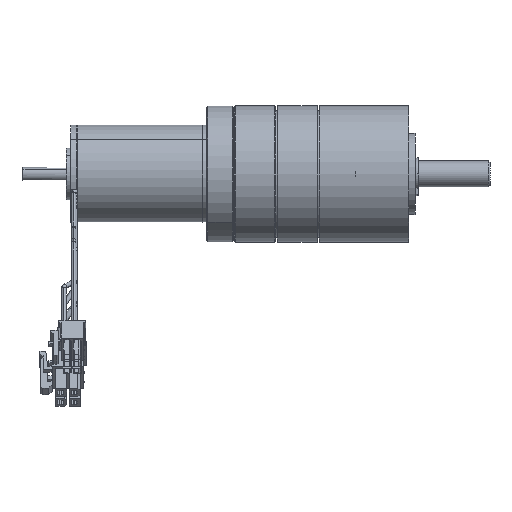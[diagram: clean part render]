
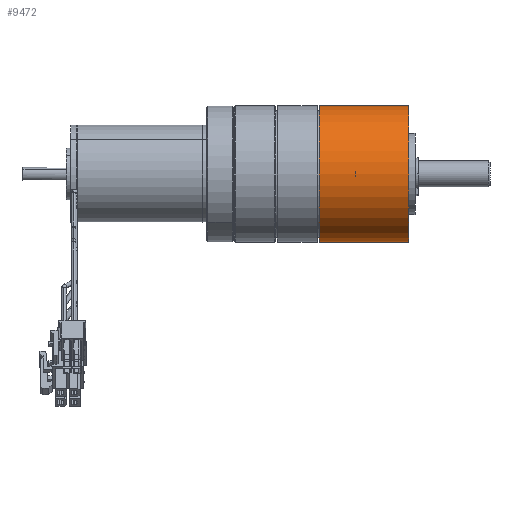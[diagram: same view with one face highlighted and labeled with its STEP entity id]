
A CAD part, front view. The second image highlights one B-rep face of the part: STEP entity #9472.
In plain terms, the highlighted cylindrical face has radius 21 mm (diameter 42 mm), a partial arc.
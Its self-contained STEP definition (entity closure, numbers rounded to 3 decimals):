
#1850 = ORIENTED_EDGE ( 'NONE', *, *, #38121, .T. ) ;
#3656 = CIRCLE ( 'NONE', #16270, 21. ) ;
#3757 = DIRECTION ( 'NONE',  ( 0., 0., -1. ) ) ;
#6589 = VECTOR ( 'NONE', #31082, 1000. ) ;
#8558 = CYLINDRICAL_SURFACE ( 'NONE', #44877, 21. ) ;
#8593 = CARTESIAN_POINT ( 'NONE',  ( -2., 0., 21. ) ) ;
#9262 = DIRECTION ( 'NONE',  ( 0., 0., -1. ) ) ;
#9472 = ADVANCED_FACE ( 'NONE', ( #28973 ), #8558, .T. ) ;
#9943 = VERTEX_POINT ( 'NONE', #17185 ) ;
#13030 = DIRECTION ( 'NONE',  ( 1., 0., 0. ) ) ;
#13934 = LINE ( 'NONE', #59204, #6589 ) ;
#15158 = ORIENTED_EDGE ( 'NONE', *, *, #45230, .T. ) ;
#16270 = AXIS2_PLACEMENT_3D ( 'NONE', #50227, #59835, #27034 ) ;
#17185 = CARTESIAN_POINT ( 'NONE',  ( 25.5, 0., 21. ) ) ;
#17838 = DIRECTION ( 'NONE',  ( -1., 0., 0. ) ) ;
#23751 = CIRCLE ( 'NONE', #52446, 21. ) ;
#26602 = DIRECTION ( 'NONE',  ( 1., 0., 0. ) ) ;
#26997 = CARTESIAN_POINT ( 'NONE',  ( -3.475, 0., 0. ) ) ;
#27034 = DIRECTION ( 'NONE',  ( 0., 0., -1. ) ) ;
#28035 = VERTEX_POINT ( 'NONE', #47610 ) ;
#28973 = FACE_OUTER_BOUND ( 'NONE', #53928, .T. ) ;
#30516 = CARTESIAN_POINT ( 'NONE',  ( -2., 0., -21. ) ) ;
#31082 = DIRECTION ( 'NONE',  ( 1., 0., 0. ) ) ;
#34350 = ORIENTED_EDGE ( 'NONE', *, *, #59052, .F. ) ;
#34893 = ORIENTED_EDGE ( 'NONE', *, *, #35915, .T. ) ;
#35915 = EDGE_CURVE ( 'NONE', #28035, #9943, #23751, .T. ) ;
#37736 = VERTEX_POINT ( 'NONE', #30516 ) ;
#38121 = EDGE_CURVE ( 'NONE', #37736, #28035, #43541, .T. ) ;
#42683 = VERTEX_POINT ( 'NONE', #8593 ) ;
#43541 = LINE ( 'NONE', #50263, #54481 ) ;
#44877 = AXIS2_PLACEMENT_3D ( 'NONE', #26997, #26602, #3757 ) ;
#45230 = EDGE_CURVE ( 'NONE', #42683, #37736, #3656, .T. ) ;
#47610 = CARTESIAN_POINT ( 'NONE',  ( 25.5, 0., -21. ) ) ;
#50227 = CARTESIAN_POINT ( 'NONE',  ( -2., 0., 0. ) ) ;
#50263 = CARTESIAN_POINT ( 'NONE',  ( -3.475, 0., -21. ) ) ;
#52446 = AXIS2_PLACEMENT_3D ( 'NONE', #55055, #17838, #9262 ) ;
#53928 = EDGE_LOOP ( 'NONE', ( #34350, #15158, #1850, #34893 ) ) ;
#54481 = VECTOR ( 'NONE', #13030, 1000. ) ;
#55055 = CARTESIAN_POINT ( 'NONE',  ( 25.5, 0., 0. ) ) ;
#59052 = EDGE_CURVE ( 'NONE', #42683, #9943, #13934, .T. ) ;
#59204 = CARTESIAN_POINT ( 'NONE',  ( -3.475, 0., 21. ) ) ;
#59835 = DIRECTION ( 'NONE',  ( 1., 0., 0. ) ) ;
